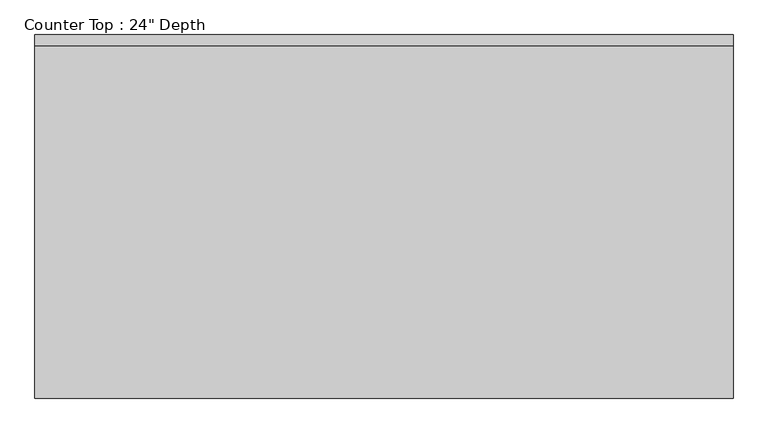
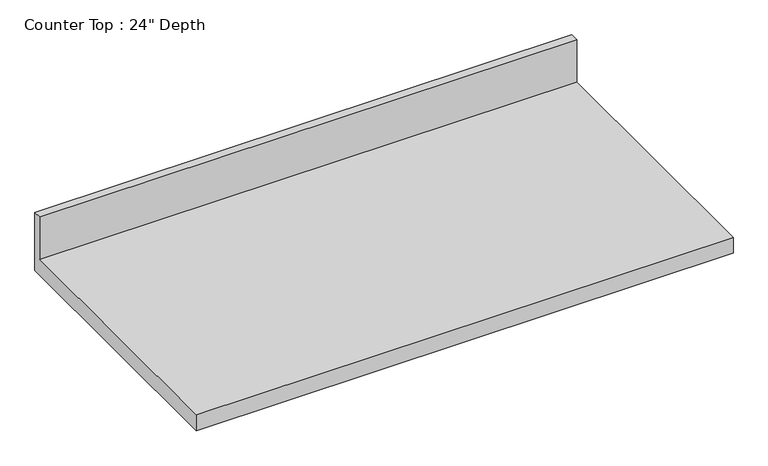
"""IFC4 building model written with IfcOpenShell, lengths in millimetres: furniture geometry."""

from ifc_helpers import new_model, si_unit, frame, origin, place, context, project, spatial, polyline, outline, extrude, source, transform, mapped, element, save


def furniture_bb833568(model_context):
    return source(origin(), model_context, "Body", "SweptSolid", [
        extrude(outline(polyline([(0.0, 1016.0), (0.0, 876.3), (-635.0, 876.3), (-635.0, 914.4), (-19.05, 914.4), (-19.05, 1016.0), (0.0, 1016.0)])), frame((-1200.4622951, 0.0, 0.0), z_axis=(1.0, 0.0, 0.0), x_axis=(0.0, 1.0, 0.0)), (0.0, 0.0, 1.0), 1219.2),
    ])


if __name__ == "__main__":
    model = new_model("IFC4")
    model_context = context("Model", 3, world=origin())
    ifc_project = project(units=[si_unit("LENGTHUNIT", "METRE", prefix="MILLI")], contexts=[model_context])
    site = spatial("IfcSite", under=ifc_project)
    building = spatial("IfcBuilding", under=site)
    placement = place(None, origin())
    furniture_shape = furniture_bb833568(model_context)
    element("IfcFurniture", 1, ObjectType="Counter Top : 24\" Depth", at=placement, inside=building, context=model_context, shape_type="MappedRepresentation", body=[
        mapped(furniture_shape, transform((0.0, 0.0, 0.0), x_axis=(1.0, 0.0, 0.0), y_axis=(0.0, 1.0, 0.0), z_axis=(0.0, 0.0, 1.0))),
    ])
    save(model, "model.ifc")
